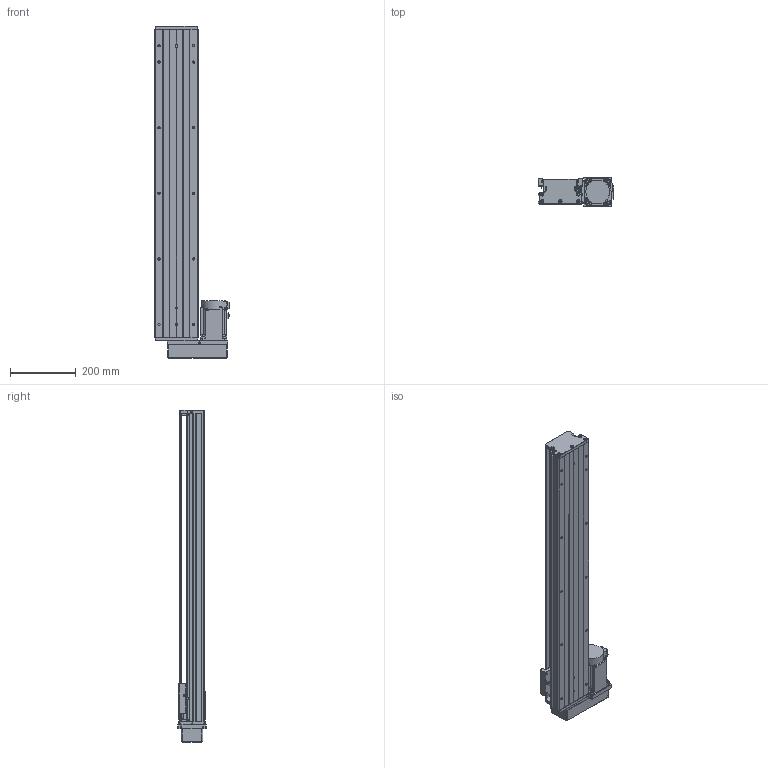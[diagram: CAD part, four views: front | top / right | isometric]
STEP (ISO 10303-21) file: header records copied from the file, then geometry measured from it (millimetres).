
FILE_DESCRIPTION (( 'STEP AP203' ), '1' );
FILE_NAME ('KTH130-800-BR-M75-C4.step', '2023-06-30T04:56:47', ( '微软用户' ), ( '微软中国' ), 'SwSTEP 2.0', 'SolidWorks 2020', '' );
FILE_SCHEMA (( 'CONFIG_CONTROL_DESIGN' ));
Length unit declared in the file: millimetre
Products named in the file (18): KTH130-800-BR-M75-C4; GB1155-6X6; GBT77-2000 M3×3; GBT70.1 M5℅16; す晦芛蹟隊 M3℅5; GBT 70.2-M3¡Á5_M3¡Á6; GBT 70.3-M3℅8; GTH14-001_800; CTHA60-017; hg-kn73j_-s100; KTH130-002_KTH130-002; EE_SX911P_R; CTHA86-015-3_CTHA86-015-4; KTH130-004; CTHA60-016; CTHA86-035; KTH130-005; GBT 70.1-M3℅5
Assembly tree (49 placements, depth 2):
  KTH130-800-BR-M75-C4
    GTH14-001_800
    KTH130-002_KTH130-002
    KTH130-004
    KTH130-005
    GB1155-6X6  x2
    GBT70.1 M5℅16  x10
    GBT 70.2-M3¡Á5_M3¡Á6  x4
    CTHA60-017  x3
    EE_SX911P_R  x3
    CTHA60-016  x2
    GBT 70.1-M3℅5  x6
    GBT77-2000 M3×3  x6
    す晦芛蹟隊 M3℅5  x2
    GBT 70.3-M3℅8  x4
    hg-kn73j_-s100
    CTHA86-015-3_CTHA86-015-4
    CTHA86-035
Bounding box: 230.3 x 87 x 1012 mm (x, y, z)
Volume: 6486795.7 mm3; surface area: 933207.4 mm2
Topology: 52 solids, 52 shells, 2202 faces, 5340 edges, 3343 vertices
Faces by surface type: plane 1210, cylinder 638, cone 238, torus 100, sphere 16
Entity records: 40253 total; most frequent: CARTESIAN_POINT 6772, DIRECTION 6637, ORIENTED_EDGE 6184, EDGE_CURVE 3092, AXIS2_PLACEMENT_3D 2326, VECTOR 1985, LINE 1985, VERTEX_POINT 1977
